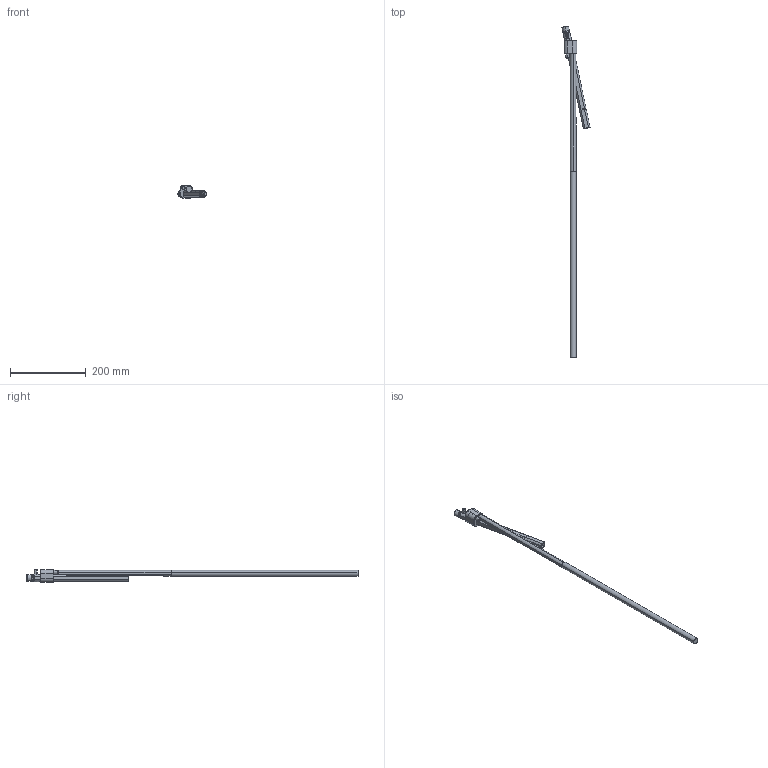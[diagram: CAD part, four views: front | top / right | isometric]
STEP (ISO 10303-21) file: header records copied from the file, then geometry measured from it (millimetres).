
FILE_DESCRIPTION (( 'STEP AP214' ), '1' );
FILE_NAME ('KR34125L-12-S-00.STEP', '2020-05-04T14:39:52', ( '' ), ( '' ), 'SwSTEP 2.0', 'SolidWorks 2019', '' );
FILE_SCHEMA (( 'AUTOMOTIVE_DESIGN' ));
Length unit declared in the file: millimetre
Products named in the file (11): 9DR3408FF; 8KR34125L-OBT; 8DR3408FF; 3JT14.5X2-VIT; KR34125L-12-S-00; 9KR34125L-EI-S_B12-00; 9DR34-AL; 9DR3408-TOR; 3IMAN5X3-150; 9DR34XX20-BASE-S_BASE-12; 9KR34125L-EV-S_B12-00
Assembly tree (10 placements, depth 3):
  KR34125L-12-S-00
    9DR34XX20-BASE-S_BASE-12
    9KR34125L-EI-S_B12-00
    9KR34125L-EV-S_B12-00
    9DR34-AL
    9DR3408-TOR
    8KR34125L-OBT
    3JT14.5X2-VIT
    9DR3408FF
      8DR3408FF
      3IMAN5X3-150
Bounding box: 74.64 x 879.48 x 34 mm (x, y, z)
Volume: 242191.3 mm3; surface area: 80986.5 mm2
Topology: 8 solids, 9 shells, 281 faces, 637 edges, 379 vertices
Faces by surface type: plane 90, cylinder 88, cone 73, torus 26, bspline 4
Entity records: 8578 total; most frequent: CARTESIAN_POINT 1725, DIRECTION 1434, ORIENTED_EDGE 1250, EDGE_CURVE 625, AXIS2_PLACEMENT_3D 576, VERTEX_POINT 379, EDGE_LOOP 308, CIRCLE 284
